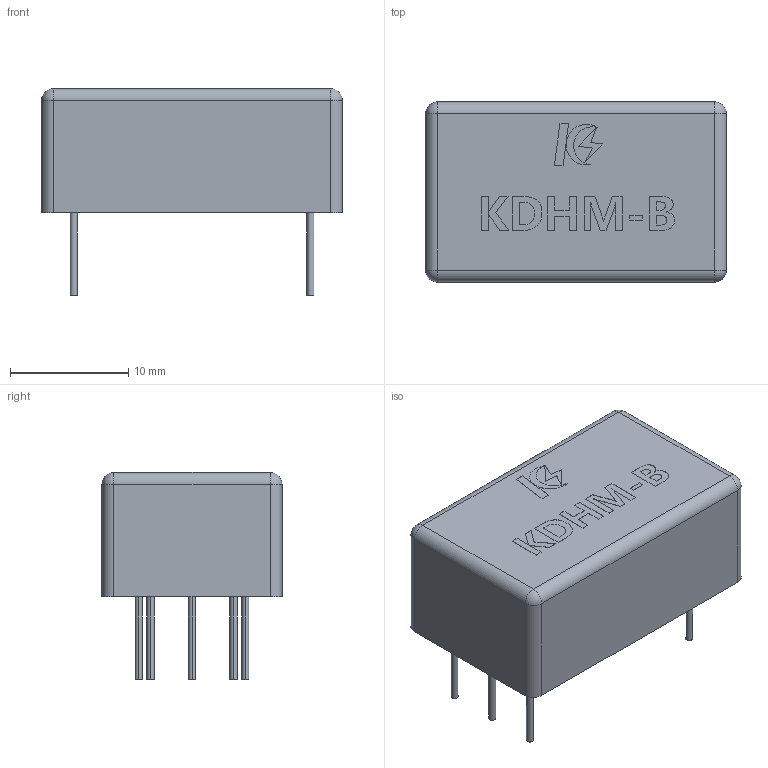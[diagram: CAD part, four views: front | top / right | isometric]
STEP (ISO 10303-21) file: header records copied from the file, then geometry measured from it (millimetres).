
FILE_DESCRIPTION (( 'STEP AP214' ), '1' );
FILE_NAME ('KDHM-B.STEP', '2026-08-04T14:30:58', ( '' ), ( '' ), 'SwSTEP 2.0', 'SolidWorks 2024', '' );
FILE_SCHEMA (( 'AUTOMOTIVE_DESIGN' ));
Length unit declared in the file: millimetre
Products named in the file (1): KDHM-B
Bounding box: 25.4 x 15.2 x 17.51 mm (x, y, z)
Volume: 4038.3 mm3; surface area: 1637.6 mm2
Topology: 1 solids, 1 shells, 140 faces, 355 edges, 230 vertices
Faces by surface type: plane 94, cylinder 22, bspline 20, sphere 4
Entity records: 6654 total; most frequent: CARTESIAN_POINT 1830, ORIENTED_EDGE 702, DIRECTION 597, EDGE_CURVE 351, LINE 267, VECTOR 267, VERTEX_POINT 230, AXIS2_PLACEMENT_3D 165
